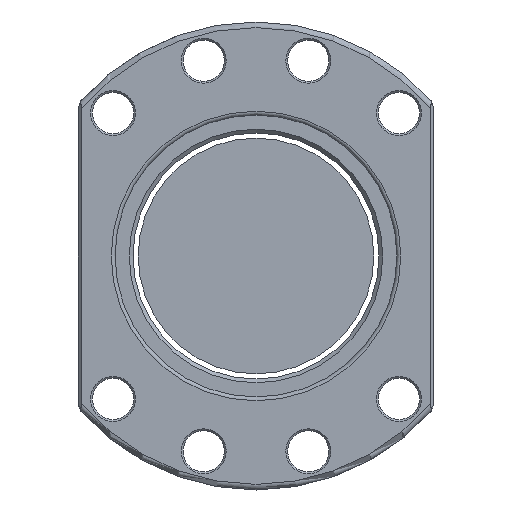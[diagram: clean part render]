
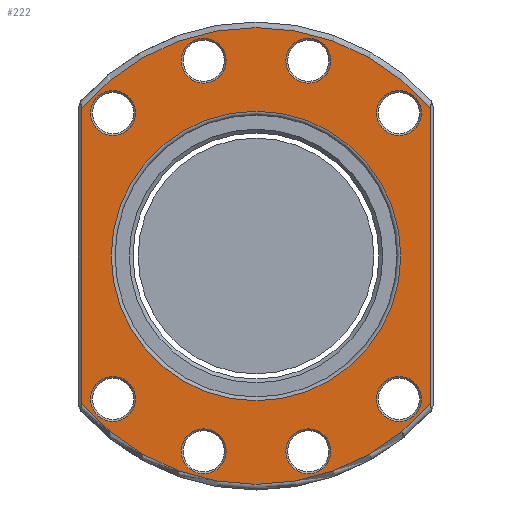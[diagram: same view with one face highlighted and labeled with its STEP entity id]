
A CAD part, front view. The second image highlights one B-rep face of the part: STEP entity #222.
In plain terms, the highlighted planar face has unit normal (0, -1, 0).
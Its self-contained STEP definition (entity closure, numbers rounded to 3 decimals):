
#39=LINE('',#1646,#63);
#40=LINE('',#1650,#64);
#63=VECTOR('',#1347,1.);
#64=VECTOR('',#1350,1.);
#167=PLANE('',#1141);
#222=ADVANCED_FACE('',(#337,#338,#339,#340,#341,#342,#343,#344,#345,#346),
#167,.F.);
#337=FACE_BOUND('',#469,.T.);
#338=FACE_BOUND('',#470,.T.);
#339=FACE_BOUND('',#471,.T.);
#340=FACE_BOUND('',#472,.T.);
#341=FACE_BOUND('',#473,.T.);
#342=FACE_BOUND('',#474,.T.);
#343=FACE_BOUND('',#475,.T.);
#344=FACE_BOUND('',#476,.T.);
#345=FACE_BOUND('',#477,.T.);
#346=FACE_BOUND('',#478,.T.);
#469=EDGE_LOOP('',(#617));
#470=EDGE_LOOP('',(#618));
#471=EDGE_LOOP('',(#619));
#472=EDGE_LOOP('',(#620));
#473=EDGE_LOOP('',(#621));
#474=EDGE_LOOP('',(#622));
#475=EDGE_LOOP('',(#623));
#476=EDGE_LOOP('',(#624));
#477=EDGE_LOOP('',(#625));
#478=EDGE_LOOP('',(#626,#627,#628,#629));
#617=ORIENTED_EDGE('',*,*,#920,.T.);
#618=ORIENTED_EDGE('',*,*,#921,.T.);
#619=ORIENTED_EDGE('',*,*,#922,.T.);
#620=ORIENTED_EDGE('',*,*,#923,.T.);
#621=ORIENTED_EDGE('',*,*,#924,.T.);
#622=ORIENTED_EDGE('',*,*,#925,.T.);
#623=ORIENTED_EDGE('',*,*,#926,.T.);
#624=ORIENTED_EDGE('',*,*,#927,.T.);
#625=ORIENTED_EDGE('',*,*,#928,.T.);
#626=ORIENTED_EDGE('',*,*,#929,.T.);
#627=ORIENTED_EDGE('',*,*,#930,.T.);
#628=ORIENTED_EDGE('',*,*,#931,.T.);
#629=ORIENTED_EDGE('',*,*,#932,.T.);
#823=VERTEX_POINT('',#1626);
#824=VERTEX_POINT('',#1628);
#825=VERTEX_POINT('',#1630);
#826=VERTEX_POINT('',#1632);
#827=VERTEX_POINT('',#1634);
#828=VERTEX_POINT('',#1636);
#829=VERTEX_POINT('',#1638);
#830=VERTEX_POINT('',#1640);
#831=VERTEX_POINT('',#1642);
#832=VERTEX_POINT('',#1644);
#833=VERTEX_POINT('',#1645);
#834=VERTEX_POINT('',#1647);
#835=VERTEX_POINT('',#1649);
#920=EDGE_CURVE('',#823,#823,#1033,.T.);
#921=EDGE_CURVE('',#824,#824,#1034,.T.);
#922=EDGE_CURVE('',#825,#825,#1035,.T.);
#923=EDGE_CURVE('',#826,#826,#1036,.T.);
#924=EDGE_CURVE('',#827,#827,#1037,.T.);
#925=EDGE_CURVE('',#828,#828,#1038,.T.);
#926=EDGE_CURVE('',#829,#829,#1039,.T.);
#927=EDGE_CURVE('',#830,#830,#1040,.T.);
#928=EDGE_CURVE('',#831,#831,#1041,.T.);
#929=EDGE_CURVE('',#832,#833,#1042,.T.);
#930=EDGE_CURVE('',#833,#834,#39,.T.);
#931=EDGE_CURVE('',#834,#835,#1043,.T.);
#932=EDGE_CURVE('',#835,#832,#40,.T.);
#1033=CIRCLE('',#1130,6.);
#1034=CIRCLE('',#1131,6.);
#1035=CIRCLE('',#1132,6.);
#1036=CIRCLE('',#1133,6.);
#1037=CIRCLE('',#1134,6.);
#1038=CIRCLE('',#1135,6.);
#1039=CIRCLE('',#1136,6.);
#1040=CIRCLE('',#1137,6.);
#1041=CIRCLE('',#1138,38.65);
#1042=CIRCLE('',#1139,61.);
#1043=CIRCLE('',#1140,61.);
#1130=AXIS2_PLACEMENT_3D('',#1625,#1327,#1328);
#1131=AXIS2_PLACEMENT_3D('',#1627,#1329,#1330);
#1132=AXIS2_PLACEMENT_3D('',#1629,#1331,#1332);
#1133=AXIS2_PLACEMENT_3D('',#1631,#1333,#1334);
#1134=AXIS2_PLACEMENT_3D('',#1633,#1335,#1336);
#1135=AXIS2_PLACEMENT_3D('',#1635,#1337,#1338);
#1136=AXIS2_PLACEMENT_3D('',#1637,#1339,#1340);
#1137=AXIS2_PLACEMENT_3D('',#1639,#1341,#1342);
#1138=AXIS2_PLACEMENT_3D('',#1641,#1343,#1344);
#1139=AXIS2_PLACEMENT_3D('',#1643,#1345,#1346);
#1140=AXIS2_PLACEMENT_3D('',#1648,#1348,#1349);
#1141=AXIS2_PLACEMENT_3D('',#1651,#1351,#1352);
#1327=DIRECTION('',(0.,1.,0.));
#1328=DIRECTION('',(0.,0.,1.));
#1329=DIRECTION('',(0.,1.,0.));
#1330=DIRECTION('',(0.,0.,1.));
#1331=DIRECTION('',(0.,1.,0.));
#1332=DIRECTION('',(0.,0.,1.));
#1333=DIRECTION('',(0.,1.,0.));
#1334=DIRECTION('',(0.,0.,1.));
#1335=DIRECTION('',(0.,1.,0.));
#1336=DIRECTION('',(0.,0.,1.));
#1337=DIRECTION('',(0.,1.,0.));
#1338=DIRECTION('',(0.,0.,1.));
#1339=DIRECTION('',(0.,1.,0.));
#1340=DIRECTION('',(0.,0.,1.));
#1341=DIRECTION('',(0.,1.,0.));
#1342=DIRECTION('',(0.,0.,1.));
#1343=DIRECTION('',(0.,1.,0.));
#1344=DIRECTION('',(0.,0.,1.));
#1345=DIRECTION('',(0.,-1.,0.));
#1346=DIRECTION('',(0.,0.,1.));
#1347=DIRECTION('',(0.,0.,1.));
#1348=DIRECTION('',(0.,-1.,0.));
#1349=DIRECTION('',(0.,0.,1.));
#1350=DIRECTION('',(0.,0.,-1.));
#1351=DIRECTION('',(0.,1.,0.));
#1352=DIRECTION('',(0.,0.,1.));
#1625=CARTESIAN_POINT('',(-38.184,0.,38.184));
#1626=CARTESIAN_POINT('',(-38.184,0.,44.184));
#1627=CARTESIAN_POINT('',(13.976,0.,-52.16));
#1628=CARTESIAN_POINT('',(13.976,0.,-46.16));
#1629=CARTESIAN_POINT('',(13.976,0.,52.16));
#1630=CARTESIAN_POINT('',(13.976,0.,58.16));
#1631=CARTESIAN_POINT('',(-13.976,0.,52.16));
#1632=CARTESIAN_POINT('',(-13.976,0.,58.16));
#1633=CARTESIAN_POINT('',(-38.184,0.,-38.184));
#1634=CARTESIAN_POINT('',(-38.184,0.,-32.184));
#1635=CARTESIAN_POINT('',(-13.976,0.,-52.16));
#1636=CARTESIAN_POINT('',(-13.976,0.,-46.16));
#1637=CARTESIAN_POINT('',(38.184,0.,-38.184));
#1638=CARTESIAN_POINT('',(38.184,0.,-32.184));
#1639=CARTESIAN_POINT('',(38.184,0.,38.184));
#1640=CARTESIAN_POINT('',(38.184,0.,44.184));
#1641=CARTESIAN_POINT('',(0.,0.,0.));
#1642=CARTESIAN_POINT('',(0.,0.,38.65));
#1643=CARTESIAN_POINT('',(0.,0.,0.));
#1644=CARTESIAN_POINT('',(-46.5,0.,-39.481));
#1645=CARTESIAN_POINT('',(46.5,0.,-39.481));
#1646=CARTESIAN_POINT('',(46.5,0.,38.272));
#1647=CARTESIAN_POINT('',(46.5,0.,39.481));
#1648=CARTESIAN_POINT('',(0.,0.,0.));
#1649=CARTESIAN_POINT('',(-46.5,0.,39.481));
#1650=CARTESIAN_POINT('',(-46.5,0.,-38.272));
#1651=CARTESIAN_POINT('',(0.,0.,0.));
